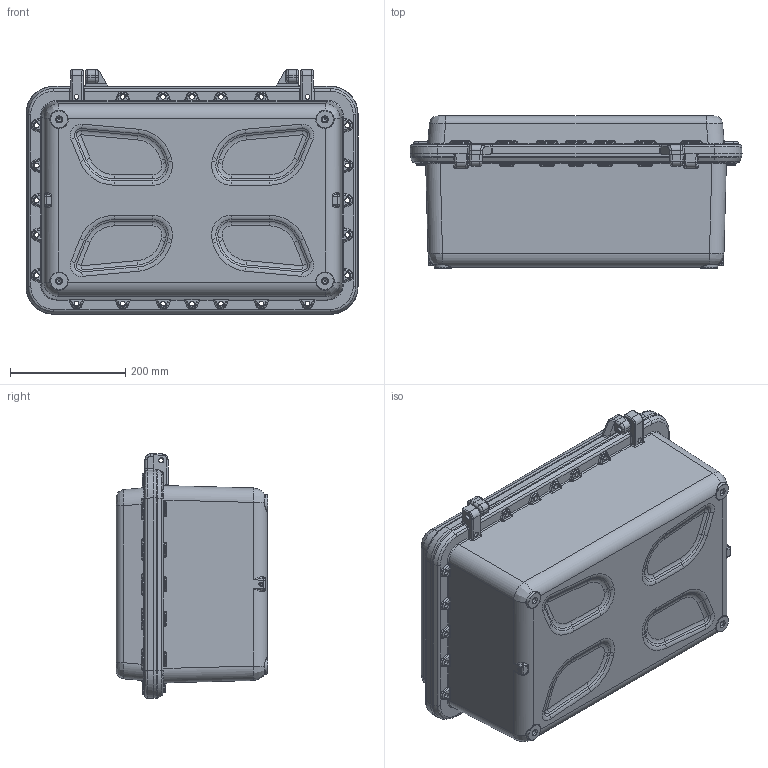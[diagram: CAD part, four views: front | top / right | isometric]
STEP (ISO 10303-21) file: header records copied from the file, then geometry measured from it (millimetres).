
FILE_DESCRIPTION(('STEP AP203'), '1');
FILE_NAME('Ñáîðêà_êîðïóñ Â07-01', '', ('UNSPECIFIED'), ('UNSPECIFIED'), 'C3D Converter', 'C3D Toolkit', '');
FILE_SCHEMA(('CONFIG_CONTROL_DESIGN'));
Length unit declared in the file: millimetre
Products named in the file (3): В07-01; В07-02
Assembly tree (2 placements, depth 2):
  (unnamed)
    В07-01
    В07-02
Bounding box: 575 x 263 x 423.55 mm (x, y, z)
Volume: 5719629.3 mm3; surface area: 1645084.8 mm2
Topology: 1 solids, 2 shells, 2312 faces, 5679 edges, 3372 vertices
Faces by surface type: cylinder 982, plane 406, bspline 384, cone 346, torus 194
Full cylindrical faces by diameter (mm): 4.917 x7, 5.188 x1, 8 x2, 8.376 x28, 9 x2, 11 x48, 18 x24
Entity records: 147292 total; most frequent: CARTESIAN_POINT 76129, DIRECTION 10978, ORIENTED_EDGE 10886, EDGE_CURVE 5445, AXIS2_PLACEMENT_3D 4453, VERTEX_POINT 3362, EDGE_LOOP 2645, CIRCLE 2522
